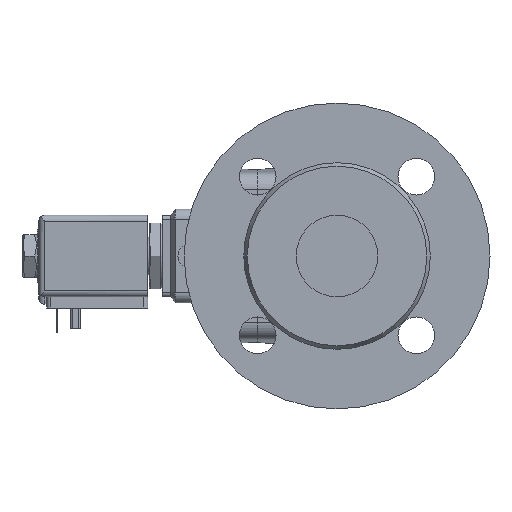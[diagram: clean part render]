
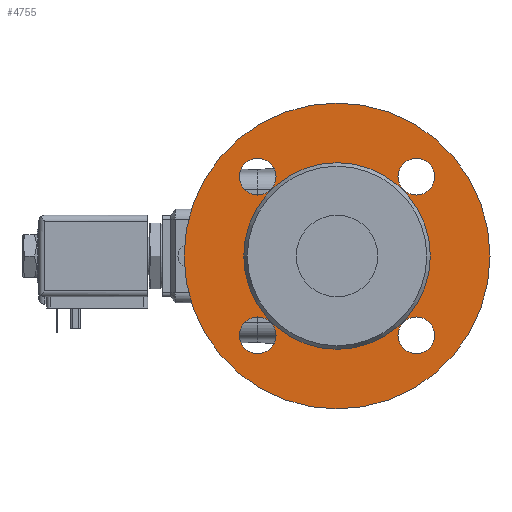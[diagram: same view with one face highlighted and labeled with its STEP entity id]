
A CAD part, left-side view. The second image highlights one B-rep face of the part: STEP entity #4755.
In plain terms, the highlighted planar face has unit normal (-1, 0, 0).
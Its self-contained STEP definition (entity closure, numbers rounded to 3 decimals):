
#265=CIRCLE('',#5648,45.732);
#267=CIRCLE('',#5651,75.);
#268=CIRCLE('',#5652,9.);
#269=CIRCLE('',#5653,9.);
#270=CIRCLE('',#5654,9.);
#271=CIRCLE('',#5655,9.);
#827=ORIENTED_EDGE('',*,*,#2025,.T.);
#828=ORIENTED_EDGE('',*,*,#2026,.T.);
#829=ORIENTED_EDGE('',*,*,#2027,.T.);
#830=ORIENTED_EDGE('',*,*,#2028,.T.);
#831=ORIENTED_EDGE('',*,*,#2029,.T.);
#832=ORIENTED_EDGE('',*,*,#2023,.F.);
#2023=EDGE_CURVE('',#2653,#2653,#265,.T.);
#2025=EDGE_CURVE('',#2655,#2655,#267,.T.);
#2026=EDGE_CURVE('',#2656,#2656,#268,.F.);
#2027=EDGE_CURVE('',#2657,#2657,#269,.F.);
#2028=EDGE_CURVE('',#2658,#2658,#270,.F.);
#2029=EDGE_CURVE('',#2659,#2659,#271,.F.);
#2653=VERTEX_POINT('',#8094);
#2655=VERTEX_POINT('',#8099);
#2656=VERTEX_POINT('',#8101);
#2657=VERTEX_POINT('',#8103);
#2658=VERTEX_POINT('',#8105);
#2659=VERTEX_POINT('',#8107);
#3885=EDGE_LOOP('',(#827));
#3886=EDGE_LOOP('',(#828));
#3887=EDGE_LOOP('',(#829));
#3888=EDGE_LOOP('',(#830));
#3889=EDGE_LOOP('',(#831));
#3890=EDGE_LOOP('',(#832));
#4245=FACE_BOUND('',#3885,.T.);
#4246=FACE_BOUND('',#3886,.T.);
#4247=FACE_BOUND('',#3887,.T.);
#4248=FACE_BOUND('',#3888,.T.);
#4249=FACE_BOUND('',#3889,.T.);
#4250=FACE_BOUND('',#3890,.T.);
#4559=PLANE('',#5650);
#4755=ADVANCED_FACE('',(#4245,#4246,#4247,#4248,#4249,#4250),#4559,.T.);
#5648=AXIS2_PLACEMENT_3D('',#8093,#6410,#6411);
#5650=AXIS2_PLACEMENT_3D('',#8097,#6414,#6415);
#5651=AXIS2_PLACEMENT_3D('',#8098,#6416,#6417);
#5652=AXIS2_PLACEMENT_3D('',#8100,#6418,#6419);
#5653=AXIS2_PLACEMENT_3D('',#8102,#6420,#6421);
#5654=AXIS2_PLACEMENT_3D('',#8104,#6422,#6423);
#5655=AXIS2_PLACEMENT_3D('',#8106,#6424,#6425);
#6410=DIRECTION('',(-1.,0.,0.));
#6411=DIRECTION('',(0.,0.,1.));
#6414=DIRECTION('',(-1.,0.,0.));
#6415=DIRECTION('',(0.,0.,1.));
#6416=DIRECTION('',(-1.,0.,0.));
#6417=DIRECTION('',(0.,0.,1.));
#6418=DIRECTION('',(-1.,0.,0.));
#6419=DIRECTION('',(0.,0.,1.));
#6420=DIRECTION('',(-1.,0.,0.));
#6421=DIRECTION('',(0.,0.,1.));
#6422=DIRECTION('',(-1.,0.,0.));
#6423=DIRECTION('',(0.,0.,1.));
#6424=DIRECTION('',(-1.,0.,0.));
#6425=DIRECTION('',(0.,0.,1.));
#8093=CARTESIAN_POINT('',(-97.,0.,0.));
#8094=CARTESIAN_POINT('',(-97.,0.,45.732));
#8097=CARTESIAN_POINT('',(-97.,-45.732,0.));
#8098=CARTESIAN_POINT('',(-97.,0.,0.));
#8099=CARTESIAN_POINT('',(-97.,0.,75.));
#8100=CARTESIAN_POINT('',(-97.,38.891,38.891));
#8101=CARTESIAN_POINT('',(-97.,38.891,47.891));
#8102=CARTESIAN_POINT('',(-97.,38.891,-38.891));
#8103=CARTESIAN_POINT('',(-97.,38.891,-29.891));
#8104=CARTESIAN_POINT('',(-97.,-38.891,-38.891));
#8105=CARTESIAN_POINT('',(-97.,-38.891,-29.891));
#8106=CARTESIAN_POINT('',(-97.,-38.891,38.891));
#8107=CARTESIAN_POINT('',(-97.,-38.891,47.891));
